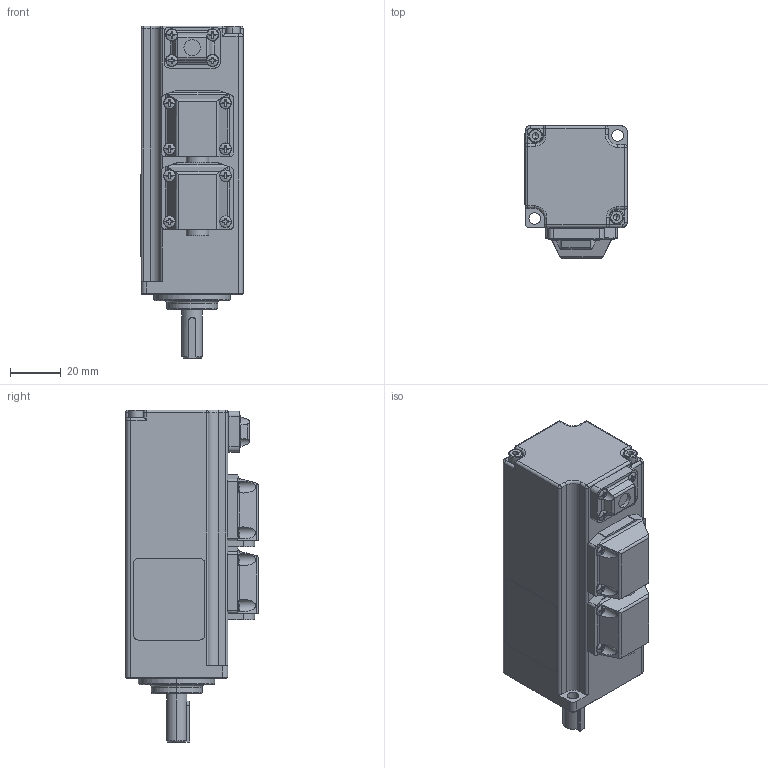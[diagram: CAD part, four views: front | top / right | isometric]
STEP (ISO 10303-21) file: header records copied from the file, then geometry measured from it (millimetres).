
FILE_DESCRIPTION((''),'2;1');
FILE_NAME('R-01E1K3A0-CUSTOMER_ASM_ASM','2021-10-18T',('weizy7'),(''),'CREO PARAMETRIC BY PTC INC, 2016260','CREO PARAMETRIC BY PTC INC, 2016260','');
FILE_SCHEMA(('CONFIG_CONTROL_DESIGN'));
Length unit declared in the file: millimetre
Products named in the file (1): R-01E1K3A0-CUSTOMER_ASM_ASM
Bounding box: 40.11 x 52 x 130.2 mm (x, y, z)
Volume: 167381 mm3; surface area: 31921.8 mm2
Topology: 1 solids, 41 shells, 967 faces, 2476 edges, 1575 vertices
Faces by surface type: plane 443, cylinder 381, cone 55, sphere 32, bspline 28, torus 28
Entity records: 30874 total; most frequent: CARTESIAN_POINT 7650, DIRECTION 4858, ORIENTED_EDGE 4852, EDGE_CURVE 2426, AXIS2_PLACEMENT_3D 1883, VERTEX_POINT 1575, VECTOR 1092, LINE 1092
